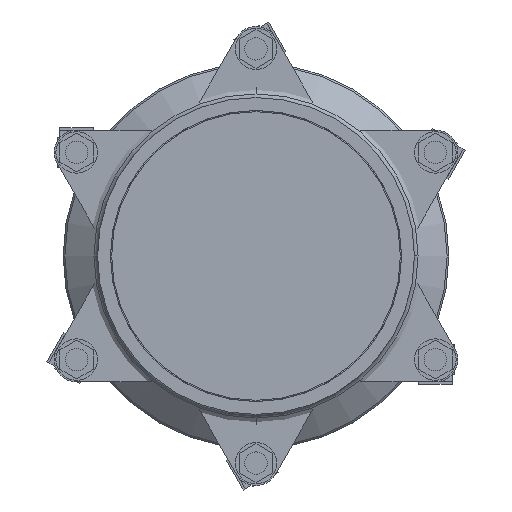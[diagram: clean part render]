
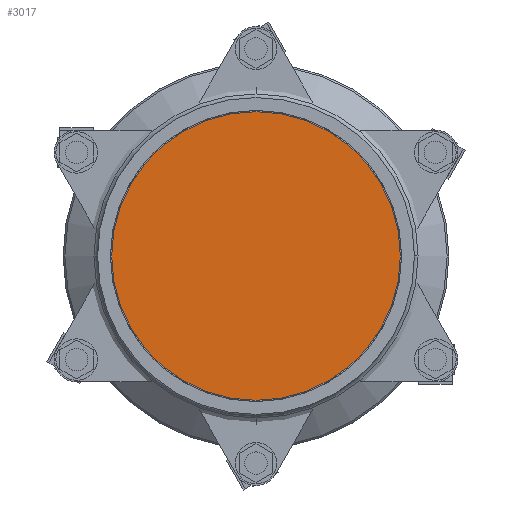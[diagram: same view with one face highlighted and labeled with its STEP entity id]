
A CAD part, left-side view. The second image highlights one B-rep face of the part: STEP entity #3017.
In plain terms, the highlighted planar face has unit normal (-1, 0, 0).
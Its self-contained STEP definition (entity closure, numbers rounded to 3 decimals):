
#3017=ADVANCED_FACE('',(#5672),#5673,.T.);
#5672=FACE_OUTER_BOUND('',#8588,.T.);
#5673=PLANE('',#8589);
#8588=EDGE_LOOP('',(#14419,#14420));
#8589=AXIS2_PLACEMENT_3D('',#14421,#14422,#14423);
#14419=ORIENTED_EDGE('',*,*,#18192,.T.);
#14420=ORIENTED_EDGE('',*,*,#16704,.T.);
#14421=CARTESIAN_POINT('',(31.5,0.0,0.0));
#14422=DIRECTION('',(-1.0,0.0,0.));
#14423=DIRECTION('',(0.,0.0,1.0));
#16704=EDGE_CURVE('',#19938,#19935,#19939,.T.);
#18192=EDGE_CURVE('',#19935,#19938,#21972,.T.);
#19935=VERTEX_POINT('',#24217);
#19938=VERTEX_POINT('',#24221);
#19939=CIRCLE('',#24222,141.5);
#21972=CIRCLE('',#26996,141.5);
#24217=CARTESIAN_POINT('',(31.5,0.0,-141.5));
#24221=CARTESIAN_POINT('',(31.5,0.,141.5));
#24222=AXIS2_PLACEMENT_3D('',#28414,#28415,#28416);
#26996=AXIS2_PLACEMENT_3D('',#29899,#29900,#29901);
#28414=CARTESIAN_POINT('',(31.5,0.0,0.0));
#28415=DIRECTION('',(-1.0,0.0,0.));
#28416=DIRECTION('',(0.,0.0,-1.0));
#29899=CARTESIAN_POINT('',(31.5,0.0,0.0));
#29900=DIRECTION('',(-1.0,0.0,0.));
#29901=DIRECTION('',(0.,0.0,-1.0));
